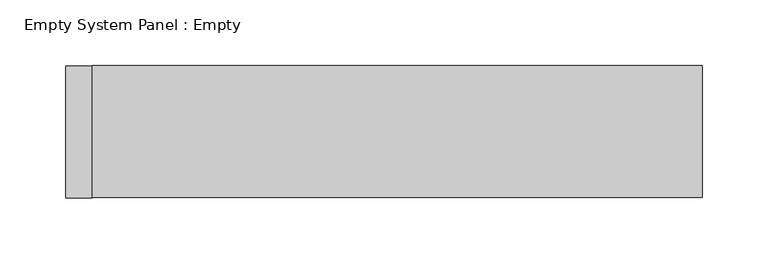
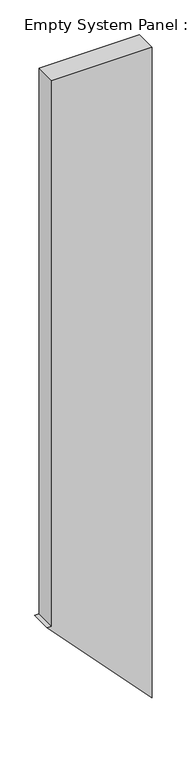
"""IFC4 building model written with IfcOpenShell, lengths in millimetres: plate geometry, Empty System Panel : Empty."""

import ifcopenshell
import ifcopenshell.guid

model = None  # the IFC model being written
_history = None  # IfcOwnerHistory: only IFC2X3 demands one
_inside = {}  # id of a spatial element -> (the spatial element, [elements in it])
_under = {}  # id of a project, library or spatial element -> (it, [spatial elements below it])
_declared = {}  # id of a project -> (the project, [libraries it declares])
_typed = {}  # id of a type object -> (the type object, [elements of that type])
_made_of = {}  # id of a material, layer set ... -> (it, [elements and type objects made of it])


def new_model(schema):
    """Start an empty IFC model of exactly this schema.

    Asked for "IFC4X3", IfcOpenShell would pick the latest addendum, in which some entities
    have other attributes; the version numbers below select the first issue.
    IFC2X3 requires an IfcOwnerHistory on every rooted entity: one is made here for all.
    """
    global model, _history
    if schema == "IFC4X3":
        model = ifcopenshell.file(schema_version=(4, 3, 0, 0))
    else:
        model = ifcopenshell.file(schema=schema)
    _inside.clear()
    _under.clear()
    _declared.clear()
    _typed.clear()
    _made_of.clear()
    _history = None
    if model.schema == "IFC2X3":
        org = make("IfcOrganization", Name="unknown")
        user = make(
            "IfcPersonAndOrganization",
            ThePerson=make("IfcPerson", FamilyName="unknown"),
            TheOrganization=org,
        )
        app = make(
            "IfcApplication",
            ApplicationDeveloper=org,
            Version="unknown",
            ApplicationFullName="unknown",
            ApplicationIdentifier="unknown",
        )
        _history = make(
            "IfcOwnerHistory",
            OwningUser=user,
            OwningApplication=app,
            ChangeAction="ADDED",
            CreationDate=0,
        )
    return model


def make(cls, **values):
    """One entity of the class cls with the attributes given. An attribute that is None is left unset."""
    return model.create_entity(
        cls, **{name: value for name, value in values.items() if value is not None}
    )


def rooted(cls, **values):
    """An entity with a GlobalId (a new one), such as an element, a storey or a relation."""
    return make(cls, GlobalId=ifcopenshell.guid.new(), OwnerHistory=_history, **values)


def si_unit(unit_type, name, prefix=None):
    """IfcSIUnit, for example si_unit("LENGTHUNIT", "METRE", prefix="MILLI")."""
    return make("IfcSIUnit", UnitType=unit_type, Prefix=prefix, Name=name)


def assignment(units):
    """IfcUnitAssignment: the units of a project."""
    return None if units is None else make("IfcUnitAssignment", Units=units)


def point(xyz):
    """IfcCartesianPoint."""
    return None if xyz is None else make("IfcCartesianPoint", Coordinates=xyz)


def direction(xyz):
    """IfcDirection."""
    return None if xyz is None else make("IfcDirection", DirectionRatios=xyz)


def frame(location, z_axis=None, x_axis=None):
    """IfcAxis2Placement3D, a coordinate frame: its origin and axes. An axis left out is left unset."""
    return make(
        "IfcAxis2Placement3D",
        Location=point(location),
        Axis=direction(z_axis),
        RefDirection=direction(x_axis),
    )


def origin():
    """The frame at (0, 0, 0) with its axes left unset."""
    return frame((0.0, 0.0, 0.0))


def place(relative_to, where):
    """IfcLocalPlacement: puts the frame where relative to a parent placement (None: the world)."""
    return make(
        "IfcLocalPlacement", PlacementRelTo=relative_to, RelativePlacement=where
    )


def context(
    kind, dimensions, precision=None, world=None, true_north=None, identifier=None
):
    """IfcGeometricRepresentationContext, for example the 3D "Model" context."""
    return make(
        "IfcGeometricRepresentationContext",
        ContextIdentifier=identifier,
        ContextType=kind,
        CoordinateSpaceDimension=dimensions,
        Precision=precision,
        WorldCoordinateSystem=world,
        TrueNorth=true_north,
    )


def project(units=None, contexts=None):
    """IfcProject with its units and contexts."""
    return rooted(
        "IfcProject",
        Name="project",
        RepresentationContexts=contexts,
        UnitsInContext=assignment(units),
    )


def spatial(cls, under=None, at=None, **own):
    """A site, building, storey or space (cls), placed at a placement, below another one or the project."""
    s = rooted(cls, ObjectPlacement=at, **own)
    if under is not None:
        _under.setdefault(under.id(), (under, []))[1].append(s)
    return s


def polyline(points):
    """IfcPolyline through the points."""
    return make("IfcPolyline", Points=[point(p) for p in points])


def outline(outer, holes=None, kind="AREA"):
    """IfcArbitraryClosedProfileDef: a profile drawn as a closed curve; with holes, ...WithVoids."""
    if holes is None:
        return make("IfcArbitraryClosedProfileDef", ProfileType=kind, OuterCurve=outer)
    return make(
        "IfcArbitraryProfileDefWithVoids",
        ProfileType=kind,
        OuterCurve=outer,
        InnerCurves=holes,
    )


def extrude(swept, where, along, depth):
    """IfcExtrudedAreaSolid: the profile swept, set in the frame where, extruded along a direction by depth."""
    return make(
        "IfcExtrudedAreaSolid",
        SweptArea=swept,
        Position=where,
        ExtrudedDirection=direction(along),
        Depth=depth,
    )


def shape(context_of_items, identifier, shape_type, items):
    """IfcShapeRepresentation: the items that make up one representation, for example the "Body"."""
    return make(
        "IfcShapeRepresentation",
        ContextOfItems=context_of_items,
        RepresentationIdentifier=identifier,
        RepresentationType=shape_type,
        Items=items,
    )


def source(mapping_origin, context_of_items, identifier, shape_type, items):
    """IfcRepresentationMap: a shape defined once, which mapped items show again and again."""
    return make(
        "IfcRepresentationMap",
        MappingOrigin=mapping_origin,
        MappedRepresentation=shape(context_of_items, identifier, shape_type, items),
    )


def transform(
    local_origin,
    x_axis=None,
    y_axis=None,
    z_axis=None,
    scale=None,
    scale2=None,
    scale3=None,
    uniform=True,
):
    """IfcCartesianTransformationOperator3D, or its non-uniform kind. x_axis, y_axis, z_axis: its Axis1, 2, 3."""
    if uniform:
        return make(
            "IfcCartesianTransformationOperator3D",
            Axis1=direction(x_axis),
            Axis2=direction(y_axis),
            LocalOrigin=point(local_origin),
            Scale=scale,
            Axis3=direction(z_axis),
        )
    return make(
        "IfcCartesianTransformationOperator3DnonUniform",
        Axis1=direction(x_axis),
        Axis2=direction(y_axis),
        LocalOrigin=point(local_origin),
        Scale=scale,
        Axis3=direction(z_axis),
        Scale2=scale2,
        Scale3=scale3,
    )


def mapped(mapping_source, mapping_target):
    """IfcMappedItem: shows the shape of a source again, moved by a transform."""
    return make(
        "IfcMappedItem", MappingSource=mapping_source, MappingTarget=mapping_target
    )


def made_of(thing, what):
    """Note that an element or type object is made of a material, layer set ...; save() writes the relation."""
    if what is not None:
        _made_of.setdefault(what.id(), (what, []))[1].append(thing)
    return thing


def element(
    cls,
    number,
    at=None,
    inside=None,
    cuts=None,
    type_object=None,
    material=None,
    context=None,
    identifier="Body",
    shape_type=None,
    held_by="IfcProductDefinitionShape",
    body=None,
    shapes=None,
    **own,
):
    """One element of the class cls, such as IfcWall. Its Tag is "e" and its number.

    at: its placement. inside: the storey or other place that contains it. cuts: it is an
    opening in that element (IfcRelVoidsElement). A single representation is given by context,
    identifier, shape_type and body (its items); several are given by shapes. held_by: the class
    of the entity that holds the representations. save() writes the other relations.
    """
    e = rooted(cls, Tag="e%d" % number, ObjectPlacement=at, **own)
    if body is not None:
        shapes = [shape(context, identifier, shape_type, body)]
    if shapes is not None:
        e.Representation = make(held_by, Representations=shapes)
    if inside is not None:
        _inside.setdefault(inside.id(), (inside, []))[1].append(e)
    if cuts is not None:
        rooted(
            "IfcRelVoidsElement", RelatingBuildingElement=cuts, RelatedOpeningElement=e
        )
    if type_object is not None:
        _typed.setdefault(type_object.id(), (type_object, []))[1].append(e)
    return made_of(e, material)


def aggregate(whole, parts):
    """IfcRelAggregates: a whole, such as a stair, and the parts it consists of."""
    return rooted("IfcRelAggregates", RelatingObject=whole, RelatedObjects=parts)


def save(model, path):
    """Write the relations noted so far, then the file.

    IfcRelAggregates (storeys below a building ...), IfcRelContainedInSpatialStructure (elements
    in a storey), IfcRelDefinesByType, IfcRelAssociatesMaterial and IfcRelDeclares: one each for
    every whole, place, type object, material and project.
    """
    for whole, parts in _under.values():
        aggregate(whole, parts)
    for where, things in _inside.values():
        rooted(
            "IfcRelContainedInSpatialStructure",
            RelatedElements=things,
            RelatingStructure=where,
        )
    for kind, things in _typed.values():
        rooted("IfcRelDefinesByType", RelatedObjects=things, RelatingType=kind)
    for what, things in _made_of.values():
        rooted("IfcRelAssociatesMaterial", RelatedObjects=things, RelatingMaterial=what)
    for by, libraries in _declared.values():
        rooted("IfcRelDeclares", RelatingContext=by, RelatedDefinitions=libraries)
    model.write(path)


def empty_system_panel_empty_ae2b5630(model_context):
    return source(origin(), model_context, "Body", "SweptSolid", [
        extrude(outline(polyline([(510.177857, -241.6440778), (0.0, 241.6440778), (3166.6310487, 241.6440778), (3166.6310487, -221.6440778), (510.177857, -221.6440778), (510.177857, -241.6440778)])), frame((0.0, -50.0, 0.0), z_axis=(0.0, 1.0, 0.0), x_axis=(0.0, 0.0, 1.0)), (0.0, 0.0, 1.0), 100.0),
    ])


if __name__ == "__main__":
    model = new_model("IFC4")
    model_context = context("Model", 3, world=origin())
    ifc_project = project(units=[si_unit("LENGTHUNIT", "METRE", prefix="MILLI")], contexts=[model_context])
    site = spatial("IfcSite", under=ifc_project)
    building = spatial("IfcBuilding", under=site)
    placement = place(None, origin())
    empty_system_panel_empty_shape = empty_system_panel_empty_ae2b5630(model_context)
    element("IfcPlate", 1, ObjectType="Empty System Panel : Empty", at=placement, inside=building, context=model_context, shape_type="MappedRepresentation", body=[
        mapped(empty_system_panel_empty_shape, transform((0.0, 0.0, 0.0), x_axis=(1.0, 0.0, 0.0), y_axis=(0.0, 1.0, 0.0), z_axis=(0.0, 0.0, 1.0))),
    ])
    save(model, "model.ifc")
